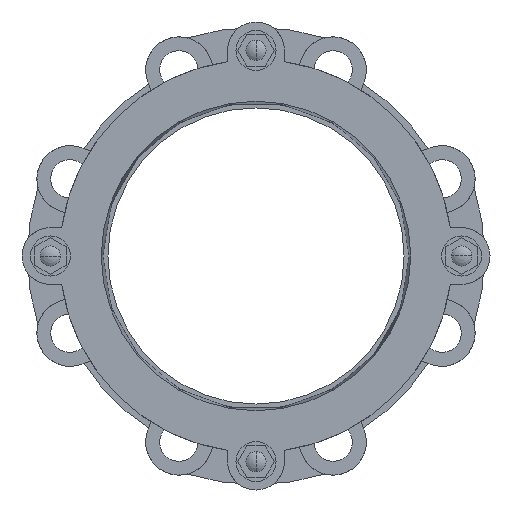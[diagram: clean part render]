
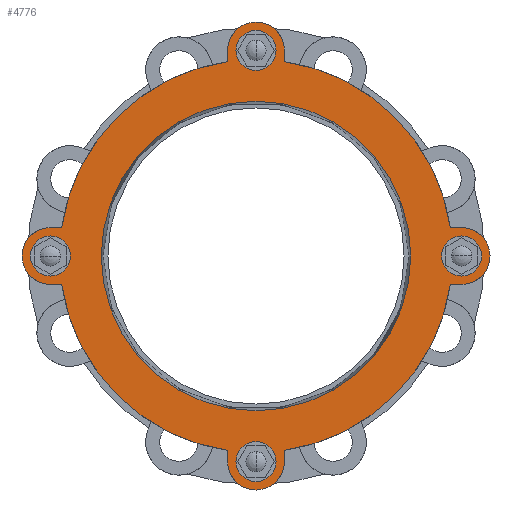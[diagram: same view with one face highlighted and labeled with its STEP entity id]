
A CAD part, left-side view. The second image highlights one B-rep face of the part: STEP entity #4776.
In plain terms, the highlighted planar face has unit normal (-1, 0, 0).
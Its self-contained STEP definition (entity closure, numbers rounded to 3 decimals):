
#105=CARTESIAN_POINT('',(-100.,0.,0.));
#106=DIRECTION('',(-1.,0.,0.));
#107=DIRECTION('',(0.,-0.144,-0.99));
#108=AXIS2_PLACEMENT_3D('',#105,#106,#107);
#141=CARTESIAN_POINT('',(-100.,0.,0.));
#142=DIRECTION('',(-1.,0.,0.));
#143=DIRECTION('',(0.,0.99,-0.144));
#144=AXIS2_PLACEMENT_3D('',#141,#142,#143);
#150=CARTESIAN_POINT('',(-100.,0.,0.));
#151=DIRECTION('',(-1.,0.,0.));
#152=DIRECTION('',(0.,0.144,0.99));
#153=AXIS2_PLACEMENT_3D('',#150,#151,#152);
#177=CARTESIAN_POINT('',(-100.,0.,0.));
#178=DIRECTION('',(-1.,0.,0.));
#179=DIRECTION('',(0.,-0.99,0.144));
#180=AXIS2_PLACEMENT_3D('',#177,#178,#179);
#1168=DIRECTION('',(0.,0.,-1.));
#1169=VECTOR('',#1168,6.734);
#1170=CARTESIAN_POINT('',(-100.,17.,123.25));
#1171=LINE('',#1170,#1169);
#1184=CARTESIAN_POINT('',(-100.,0.,-123.25));
#1185=DIRECTION('',(-1.,0.,0.));
#1186=DIRECTION('',(0.,0.,-1.));
#1187=AXIS2_PLACEMENT_3D('',#1184,#1185,#1186);
#1189=CARTESIAN_POINT('',(-100.,0.,-123.25));
#1190=DIRECTION('',(-1.,0.,0.));
#1191=DIRECTION('',(0.,0.,1.));
#1192=AXIS2_PLACEMENT_3D('',#1189,#1190,#1191);
#1194=CARTESIAN_POINT('',(-100.,0.,123.25));
#1195=DIRECTION('',(-1.,0.,0.));
#1196=DIRECTION('',(0.,0.,1.));
#1197=AXIS2_PLACEMENT_3D('',#1194,#1195,#1196);
#1199=CARTESIAN_POINT('',(-100.,0.,123.25));
#1200=DIRECTION('',(-1.,0.,0.));
#1201=DIRECTION('',(0.,0.,-1.));
#1202=AXIS2_PLACEMENT_3D('',#1199,#1200,#1201);
#1204=CARTESIAN_POINT('',(-100.,123.25,0.));
#1205=DIRECTION('',(-1.,0.,0.));
#1206=DIRECTION('',(0.,1.,0.));
#1207=AXIS2_PLACEMENT_3D('',#1204,#1205,#1206);
#1209=CARTESIAN_POINT('',(-100.,123.25,0.));
#1210=DIRECTION('',(-1.,0.,0.));
#1211=DIRECTION('',(0.,-1.,0.));
#1212=AXIS2_PLACEMENT_3D('',#1209,#1210,#1211);
#1214=DIRECTION('',(0.,-1.,0.));
#1215=VECTOR('',#1214,6.734);
#1216=CARTESIAN_POINT('',(-100.,123.25,-17.));
#1217=LINE('',#1216,#1215);
#1218=CARTESIAN_POINT('',(-100.,123.25,0.));
#1219=DIRECTION('',(-1.,0.,0.));
#1220=DIRECTION('',(0.,0.,1.));
#1221=AXIS2_PLACEMENT_3D('',#1218,#1219,#1220);
#1223=DIRECTION('',(0.,1.,0.));
#1224=VECTOR('',#1223,6.734);
#1225=CARTESIAN_POINT('',(-100.,116.516,17.));
#1226=LINE('',#1225,#1224);
#1227=CARTESIAN_POINT('',(-100.,-123.25,0.));
#1228=DIRECTION('',(-1.,0.,0.));
#1229=DIRECTION('',(0.,-1.,0.));
#1230=AXIS2_PLACEMENT_3D('',#1227,#1228,#1229);
#1232=CARTESIAN_POINT('',(-100.,-123.25,0.));
#1233=DIRECTION('',(-1.,0.,0.));
#1234=DIRECTION('',(0.,1.,0.));
#1235=AXIS2_PLACEMENT_3D('',#1232,#1233,#1234);
#1621=DIRECTION('',(0.,0.,1.));
#1622=VECTOR('',#1621,6.734);
#1623=CARTESIAN_POINT('',(-100.,-17.,-123.25));
#1624=LINE('',#1623,#1622);
#1681=DIRECTION('',(0.,0.,-1.));
#1682=VECTOR('',#1681,6.734);
#1683=CARTESIAN_POINT('',(-100.,17.,-116.516));
#1684=LINE('',#1683,#1682);
#1693=CARTESIAN_POINT('',(-100.,0.,-123.25));
#1694=DIRECTION('',(-1.,0.,0.));
#1695=DIRECTION('',(0.,1.,0.));
#1696=AXIS2_PLACEMENT_3D('',#1693,#1694,#1695);
#1988=CARTESIAN_POINT('',(-100.,0.,123.25));
#1989=DIRECTION('',(-1.,0.,0.));
#1990=DIRECTION('',(0.,-1.,0.));
#1991=AXIS2_PLACEMENT_3D('',#1988,#1989,#1990);
#2011=DIRECTION('',(0.,0.,1.));
#2012=VECTOR('',#2011,6.734);
#2013=CARTESIAN_POINT('',(-100.,-17.,116.516));
#2014=LINE('',#2013,#2012);
#2023=DIRECTION('',(0.,1.,0.));
#2024=VECTOR('',#2023,6.734);
#2025=CARTESIAN_POINT('',(-100.,-123.25,17.));
#2026=LINE('',#2025,#2024);
#2065=DIRECTION('',(0.,-1.,0.));
#2066=VECTOR('',#2065,6.734);
#2067=CARTESIAN_POINT('',(-100.,-116.516,-17.));
#2068=LINE('',#2067,#2066);
#2077=CARTESIAN_POINT('',(-100.,-123.25,0.));
#2078=DIRECTION('',(-1.,0.,0.));
#2079=DIRECTION('',(0.,0.,-1.));
#2080=AXIS2_PLACEMENT_3D('',#2077,#2078,#2079);
#2146=CARTESIAN_POINT('',(-100.,0.,0.));
#2147=DIRECTION('',(1.,0.,0.));
#2148=DIRECTION('',(0.,1.,0.));
#2149=AXIS2_PLACEMENT_3D('',#2146,#2147,#2148);
#2159=CARTESIAN_POINT('',(-100.,0.,0.));
#2160=DIRECTION('',(-1.,0.,0.));
#2161=DIRECTION('',(0.,1.,0.));
#2162=AXIS2_PLACEMENT_3D('',#2159,#2160,#2161);
#2580=CARTESIAN_POINT('',(-100.,92.75,0.));
#2582=VERTEX_POINT('',#2580);
#2590=CARTESIAN_POINT('',(-100.,-92.75,0.));
#2592=VERTEX_POINT('',#2590);
#2604=CARTESIAN_POINT('',(-100.,123.25,17.));
#2605=CARTESIAN_POINT('',(-100.,123.25,-17.));
#2606=VERTEX_POINT('',#2604);
#2607=VERTEX_POINT('',#2605);
#2609=CARTESIAN_POINT('',(-100.,116.516,17.));
#2611=VERTEX_POINT('',#2609);
#2612=CARTESIAN_POINT('',(-100.,116.516,-17.));
#2614=VERTEX_POINT('',#2612);
#2672=CARTESIAN_POINT('',(-100.,17.,123.25));
#2673=VERTEX_POINT('',#2672);
#2674=CARTESIAN_POINT('',(-100.,-17.,123.25));
#2675=VERTEX_POINT('',#2674);
#2704=CARTESIAN_POINT('',(-100.,-123.25,17.));
#2705=VERTEX_POINT('',#2704);
#2706=CARTESIAN_POINT('',(-100.,-123.25,-17.));
#2707=VERTEX_POINT('',#2706);
#2736=CARTESIAN_POINT('',(-100.,-17.,-123.25));
#2737=VERTEX_POINT('',#2736);
#2738=CARTESIAN_POINT('',(-100.,17.,-123.25));
#2739=VERTEX_POINT('',#2738);
#2748=CARTESIAN_POINT('',(-100.,-17.,116.516));
#2749=VERTEX_POINT('',#2748);
#2750=CARTESIAN_POINT('',(-100.,17.,116.516));
#2751=VERTEX_POINT('',#2750);
#2762=CARTESIAN_POINT('',(-100.,-116.516,-17.));
#2763=VERTEX_POINT('',#2762);
#2764=CARTESIAN_POINT('',(-100.,-116.516,17.));
#2765=VERTEX_POINT('',#2764);
#2776=CARTESIAN_POINT('',(-100.,17.,-116.516));
#2777=VERTEX_POINT('',#2776);
#2778=CARTESIAN_POINT('',(-100.,-17.,-116.516));
#2779=VERTEX_POINT('',#2778);
#2976=CARTESIAN_POINT('',(-100.,135.25,0.));
#2977=CARTESIAN_POINT('',(-100.,111.25,0.));
#2978=VERTEX_POINT('',#2976);
#2979=VERTEX_POINT('',#2977);
#3138=CARTESIAN_POINT('',(-100.,0.,135.25));
#3139=VERTEX_POINT('',#3138);
#3140=CARTESIAN_POINT('',(-100.,0.,111.25));
#3141=VERTEX_POINT('',#3140);
#3150=CARTESIAN_POINT('',(-100.,-135.25,0.));
#3151=VERTEX_POINT('',#3150);
#3152=CARTESIAN_POINT('',(-100.,-111.25,0.));
#3153=VERTEX_POINT('',#3152);
#3162=CARTESIAN_POINT('',(-100.,0.,-135.25));
#3163=VERTEX_POINT('',#3162);
#3164=CARTESIAN_POINT('',(-100.,0.,-111.25));
#3165=VERTEX_POINT('',#3164);
#4712=CARTESIAN_POINT('',(-100.,0.,0.));
#4713=DIRECTION('',(1.,0.,0.));
#4714=DIRECTION('',(0.,-1.,0.));
#4715=AXIS2_PLACEMENT_3D('',#4712,#4713,#4714);
#4716=PLANE('',#4715);
#4717=ORIENTED_EDGE('',*,*,#3514,.F.);
#4719=ORIENTED_EDGE('',*,*,#4718,.F.);
#4721=ORIENTED_EDGE('',*,*,#4720,.F.);
#4723=ORIENTED_EDGE('',*,*,#4722,.F.);
#4724=ORIENTED_EDGE('',*,*,#3539,.F.);
#4726=ORIENTED_EDGE('',*,*,#4725,.F.);
#4728=ORIENTED_EDGE('',*,*,#4727,.F.);
#4730=ORIENTED_EDGE('',*,*,#4729,.F.);
#4731=ORIENTED_EDGE('',*,*,#3559,.F.);
#4732=ORIENTED_EDGE('',*,*,#4702,.F.);
#4734=ORIENTED_EDGE('',*,*,#4733,.F.);
#4736=ORIENTED_EDGE('',*,*,#4735,.F.);
#4737=ORIENTED_EDGE('',*,*,#3582,.F.);
#4739=ORIENTED_EDGE('',*,*,#4738,.F.);
#4741=ORIENTED_EDGE('',*,*,#4740,.F.);
#4743=ORIENTED_EDGE('',*,*,#4742,.F.);
#4744=EDGE_LOOP('',(#4717,#4719,#4721,#4723,#4724,#4726,#4728,#4730,#4731,#4732,
#4734,#4736,#4737,#4739,#4741,#4743));
#4745=FACE_OUTER_BOUND('',#4744,.F.);
#4747=ORIENTED_EDGE('',*,*,#4746,.T.);
#4749=ORIENTED_EDGE('',*,*,#4748,.T.);
#4750=EDGE_LOOP('',(#4747,#4749));
#4751=FACE_BOUND('',#4750,.F.);
#4753=ORIENTED_EDGE('',*,*,#4752,.T.);
#4755=ORIENTED_EDGE('',*,*,#4754,.T.);
#4756=EDGE_LOOP('',(#4753,#4755));
#4757=FACE_BOUND('',#4756,.F.);
#4759=ORIENTED_EDGE('',*,*,#4758,.T.);
#4761=ORIENTED_EDGE('',*,*,#4760,.T.);
#4762=EDGE_LOOP('',(#4759,#4761));
#4763=FACE_BOUND('',#4762,.F.);
#4765=ORIENTED_EDGE('',*,*,#4764,.F.);
#4767=ORIENTED_EDGE('',*,*,#4766,.T.);
#4768=EDGE_LOOP('',(#4765,#4767));
#4769=FACE_BOUND('',#4768,.F.);
#4771=ORIENTED_EDGE('',*,*,#4770,.T.);
#4773=ORIENTED_EDGE('',*,*,#4772,.T.);
#4774=EDGE_LOOP('',(#4771,#4773));
#4775=FACE_BOUND('',#4774,.F.);
#4776=ADVANCED_FACE('',(#4745,#4751,#4757,#4763,#4769,#4775),#4716,.F.);
#109=CIRCLE('',#108,117.75);
#145=CIRCLE('',#144,117.75);
#154=CIRCLE('',#153,117.75);
#181=CIRCLE('',#180,117.75);
#1188=CIRCLE('',#1187,12.);
#1193=CIRCLE('',#1192,12.);
#1198=CIRCLE('',#1197,12.);
#1203=CIRCLE('',#1202,12.);
#1208=CIRCLE('',#1207,12.);
#1213=CIRCLE('',#1212,12.);
#1222=CIRCLE('',#1221,17.);
#1231=CIRCLE('',#1230,12.);
#1236=CIRCLE('',#1235,12.);
#1697=CIRCLE('',#1696,17.);
#1992=CIRCLE('',#1991,17.);
#2081=CIRCLE('',#2080,17.);
#2150=CIRCLE('',#2149,92.75);
#2163=CIRCLE('',#2162,92.75);
#3514=EDGE_CURVE('',#2779,#2763,#109,.T.);
#3539=EDGE_CURVE('',#2614,#2777,#145,.T.);
#3559=EDGE_CURVE('',#2751,#2611,#154,.T.);
#3582=EDGE_CURVE('',#2765,#2749,#181,.T.);
#4702=EDGE_CURVE('',#2673,#2751,#1171,.T.);
#4718=EDGE_CURVE('',#2737,#2779,#1624,.T.);
#4720=EDGE_CURVE('',#2739,#2737,#1697,.T.);
#4722=EDGE_CURVE('',#2777,#2739,#1684,.T.);
#4725=EDGE_CURVE('',#2607,#2614,#1217,.T.);
#4727=EDGE_CURVE('',#2606,#2607,#1222,.T.);
#4729=EDGE_CURVE('',#2611,#2606,#1226,.T.);
#4733=EDGE_CURVE('',#2675,#2673,#1992,.T.);
#4735=EDGE_CURVE('',#2749,#2675,#2014,.T.);
#4738=EDGE_CURVE('',#2705,#2765,#2026,.T.);
#4740=EDGE_CURVE('',#2707,#2705,#2081,.T.);
#4742=EDGE_CURVE('',#2763,#2707,#2068,.T.);
#4746=EDGE_CURVE('',#3139,#3141,#1198,.T.);
#4748=EDGE_CURVE('',#3141,#3139,#1203,.T.);
#4752=EDGE_CURVE('',#2978,#2979,#1208,.T.);
#4754=EDGE_CURVE('',#2979,#2978,#1213,.T.);
#4758=EDGE_CURVE('',#3163,#3165,#1188,.T.);
#4760=EDGE_CURVE('',#3165,#3163,#1193,.T.);
#4764=EDGE_CURVE('',#2582,#2592,#2150,.T.);
#4766=EDGE_CURVE('',#2582,#2592,#2163,.T.);
#4770=EDGE_CURVE('',#3151,#3153,#1231,.T.);
#4772=EDGE_CURVE('',#3153,#3151,#1236,.T.);
